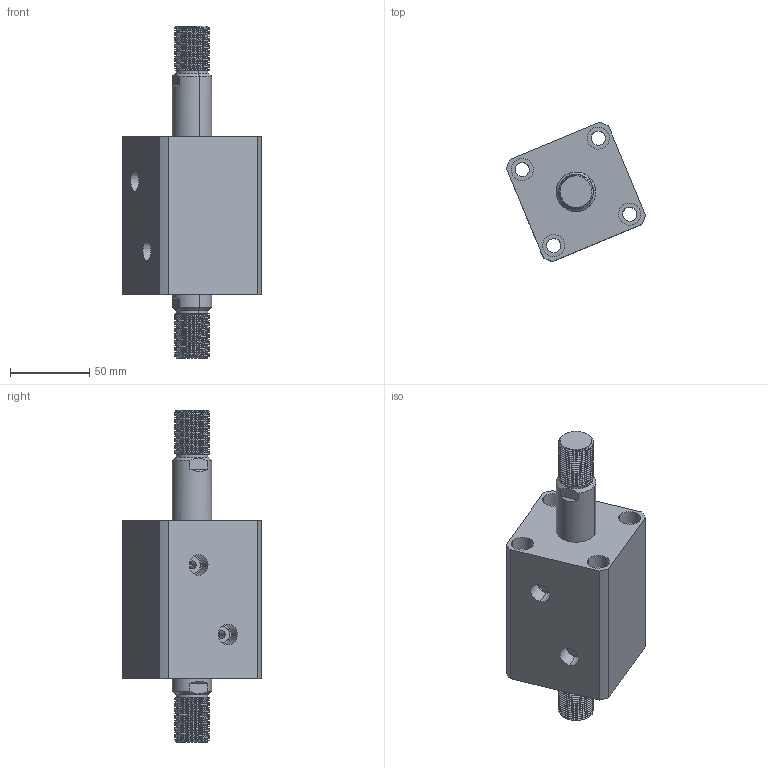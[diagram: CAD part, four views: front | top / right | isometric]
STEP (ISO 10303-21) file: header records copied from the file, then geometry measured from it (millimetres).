
FILE_DESCRIPTION (( 'STEP AP214' ), '1' );
FILE_NAME ('chtb-sw40x30w_asm.STEP', '2018-06-08T10:06:19', ( 'Windows' ), ( 'Microsoft' ), 'SwSTEP 2.0', 'SolidWorks 2015', '' );
FILE_SCHEMA (( 'AUTOMOTIVE_DESIGN' ));
Length unit declared in the file: millimetre
Products named in the file (4): chtb-sw40x30w_asm; CHTB-SW40X30NHSG; CHTB-SW40X30NBT; CHTB-SD40QG
Assembly tree (3 placements, depth 2):
  chtb-sw40x30w_asm
    CHTB-SD40QG
    CHTB-SW40X30NBT
    CHTB-SW40X30NHSG
Bounding box: 88.11 x 88.11 x 210 mm (x, y, z)
Volume: 471973.3 mm3; surface area: 92657 mm2
Topology: 3 solids, 3 shells, 254 faces, 680 edges, 452 vertices
Faces by surface type: cylinder 160, plane 46, bspline 18, cone 18, torus 12
Entity records: 17389 total; most frequent: CARTESIAN_POINT 11402, ORIENTED_EDGE 1348, DIRECTION 1094, EDGE_CURVE 674, VERTEX_POINT 452, AXIS2_PLACEMENT_3D 443, EDGE_LOOP 296, FACE_OUTER_BOUND 254
